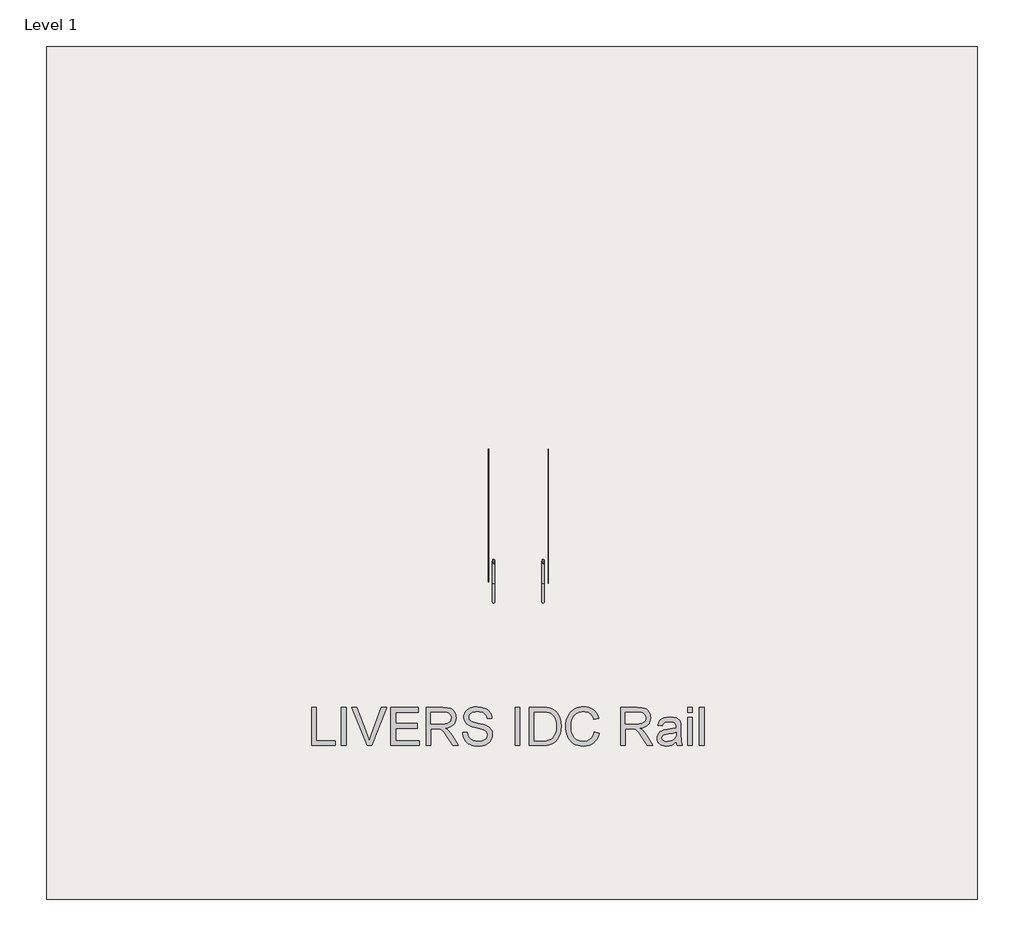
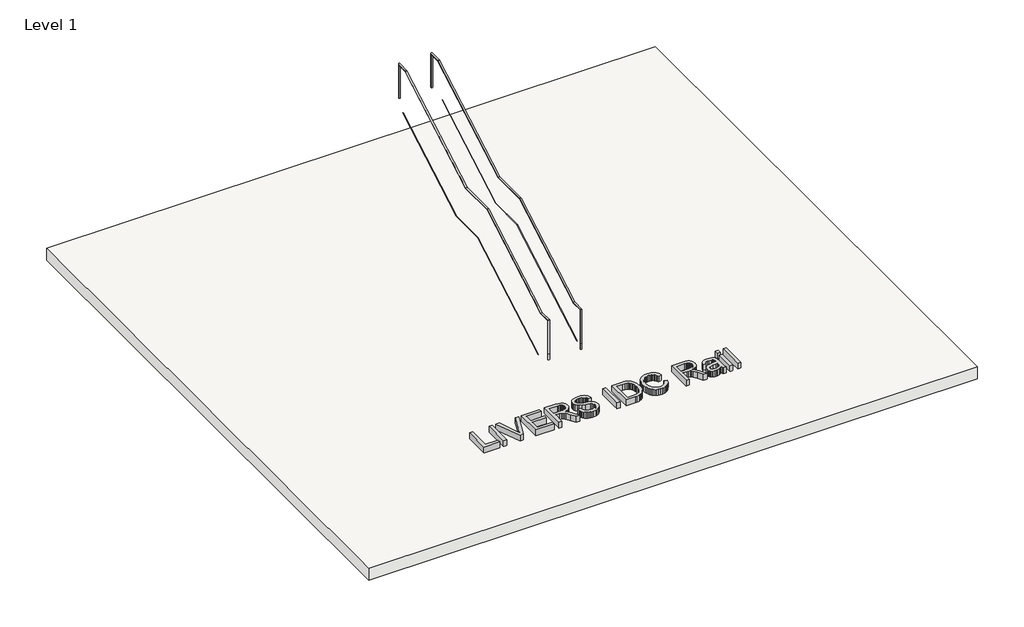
# One storey, incomplete: 2 railings, 1 proxy, 1 slab.
"""IFC4 building model written with IfcOpenShell, lengths in millimetres."""

import ifcopenshell
import ifcopenshell.guid

model = None  # the IFC model being written
_history = None  # IfcOwnerHistory: only IFC2X3 demands one
_inside = {}  # id of a spatial element -> (the spatial element, [elements in it])
_under = {}  # id of a project, library or spatial element -> (it, [spatial elements below it])
_declared = {}  # id of a project -> (the project, [libraries it declares])
_typed = {}  # id of a type object -> (the type object, [elements of that type])
_made_of = {}  # id of a material, layer set ... -> (it, [elements and type objects made of it])


def new_model(schema):
    """Start an empty IFC model of exactly this schema.

    Asked for "IFC4X3", IfcOpenShell would pick the latest addendum, in which some entities
    have other attributes; the version numbers below select the first issue.
    IFC2X3 requires an IfcOwnerHistory on every rooted entity: one is made here for all.
    """
    global model, _history
    if schema == "IFC4X3":
        model = ifcopenshell.file(schema_version=(4, 3, 0, 0))
    else:
        model = ifcopenshell.file(schema=schema)
    _inside.clear()
    _under.clear()
    _declared.clear()
    _typed.clear()
    _made_of.clear()
    _history = None
    if model.schema == "IFC2X3":
        org = make("IfcOrganization", Name="unknown")
        user = make(
            "IfcPersonAndOrganization",
            ThePerson=make("IfcPerson", FamilyName="unknown"),
            TheOrganization=org,
        )
        app = make(
            "IfcApplication",
            ApplicationDeveloper=org,
            Version="unknown",
            ApplicationFullName="unknown",
            ApplicationIdentifier="unknown",
        )
        _history = make(
            "IfcOwnerHistory",
            OwningUser=user,
            OwningApplication=app,
            ChangeAction="ADDED",
            CreationDate=0,
        )
    return model


def make(cls, **values):
    """One entity of the class cls with the attributes given. An attribute that is None is left unset."""
    return model.create_entity(
        cls, **{name: value for name, value in values.items() if value is not None}
    )


def rooted(cls, **values):
    """An entity with a GlobalId (a new one), such as an element, a storey or a relation."""
    return make(cls, GlobalId=ifcopenshell.guid.new(), OwnerHistory=_history, **values)


def si_unit(unit_type, name, prefix=None):
    """IfcSIUnit, for example si_unit("LENGTHUNIT", "METRE", prefix="MILLI")."""
    return make("IfcSIUnit", UnitType=unit_type, Prefix=prefix, Name=name)


def assignment(units):
    """IfcUnitAssignment: the units of a project."""
    return None if units is None else make("IfcUnitAssignment", Units=units)


def point(xyz):
    """IfcCartesianPoint."""
    return None if xyz is None else make("IfcCartesianPoint", Coordinates=xyz)


def direction(xyz):
    """IfcDirection."""
    return None if xyz is None else make("IfcDirection", DirectionRatios=xyz)


def frame(location, z_axis=None, x_axis=None):
    """IfcAxis2Placement3D, a coordinate frame: its origin and axes. An axis left out is left unset."""
    return make(
        "IfcAxis2Placement3D",
        Location=point(location),
        Axis=direction(z_axis),
        RefDirection=direction(x_axis),
    )


def origin():
    """The frame at (0, 0, 0) with its axes left unset."""
    return frame((0.0, 0.0, 0.0))


def origin_with_axes():
    """The frame at (0, 0, 0) with the z axis (0, 0, 1) and the x axis (1, 0, 0) written out."""
    return frame((0.0, 0.0, 0.0), z_axis=(0.0, 0.0, 1.0), x_axis=(1.0, 0.0, 0.0))


def place(relative_to, where):
    """IfcLocalPlacement: puts the frame where relative to a parent placement (None: the world)."""
    return make(
        "IfcLocalPlacement", PlacementRelTo=relative_to, RelativePlacement=where
    )


def context(
    kind, dimensions, precision=None, world=None, true_north=None, identifier=None
):
    """IfcGeometricRepresentationContext, for example the 3D "Model" context."""
    return make(
        "IfcGeometricRepresentationContext",
        ContextIdentifier=identifier,
        ContextType=kind,
        CoordinateSpaceDimension=dimensions,
        Precision=precision,
        WorldCoordinateSystem=world,
        TrueNorth=true_north,
    )


def project(units=None, contexts=None):
    """IfcProject with its units and contexts."""
    return rooted(
        "IfcProject",
        Name="project",
        RepresentationContexts=contexts,
        UnitsInContext=assignment(units),
    )


def spatial(cls, under=None, at=None, **own):
    """A site, building, storey or space (cls), placed at a placement, below another one or the project."""
    s = rooted(cls, ObjectPlacement=at, **own)
    if under is not None:
        _under.setdefault(under.id(), (under, []))[1].append(s)
    return s


def polyline(points):
    """IfcPolyline through the points."""
    return make("IfcPolyline", Points=[point(p) for p in points])


def circle_curve(where, radius):
    """IfcCircle in the frame where."""
    return make("IfcCircle", Position=where, Radius=radius)


def ellipse_curve(where, semi_axis1, semi_axis2):
    """IfcEllipse in the frame where."""
    return make(
        "IfcEllipse", Position=where, SemiAxis1=semi_axis1, SemiAxis2=semi_axis2
    )


def outline(outer, holes=None, kind="AREA"):
    """IfcArbitraryClosedProfileDef: a profile drawn as a closed curve; with holes, ...WithVoids."""
    if holes is None:
        return make("IfcArbitraryClosedProfileDef", ProfileType=kind, OuterCurve=outer)
    return make(
        "IfcArbitraryProfileDefWithVoids",
        ProfileType=kind,
        OuterCurve=outer,
        InnerCurves=holes,
    )


def extrude(swept, where, along, depth):
    """IfcExtrudedAreaSolid: the profile swept, set in the frame where, extruded along a direction by depth."""
    return make(
        "IfcExtrudedAreaSolid",
        SweptArea=swept,
        Position=where,
        ExtrudedDirection=direction(along),
        Depth=depth,
    )


def shape(context_of_items, identifier, shape_type, items):
    """IfcShapeRepresentation: the items that make up one representation, for example the "Body"."""
    return make(
        "IfcShapeRepresentation",
        ContextOfItems=context_of_items,
        RepresentationIdentifier=identifier,
        RepresentationType=shape_type,
        Items=items,
    )


def made_of(thing, what):
    """Note that an element or type object is made of a material, layer set ...; save() writes the relation."""
    if what is not None:
        _made_of.setdefault(what.id(), (what, []))[1].append(thing)
    return thing


def element(
    cls,
    number,
    at=None,
    inside=None,
    cuts=None,
    type_object=None,
    material=None,
    context=None,
    identifier="Body",
    shape_type=None,
    held_by="IfcProductDefinitionShape",
    body=None,
    shapes=None,
    **own,
):
    """One element of the class cls, such as IfcWall. Its Tag is "e" and its number.

    at: its placement. inside: the storey or other place that contains it. cuts: it is an
    opening in that element (IfcRelVoidsElement). A single representation is given by context,
    identifier, shape_type and body (its items); several are given by shapes. held_by: the class
    of the entity that holds the representations. save() writes the other relations.
    """
    e = rooted(cls, Tag="e%d" % number, ObjectPlacement=at, **own)
    if body is not None:
        shapes = [shape(context, identifier, shape_type, body)]
    if shapes is not None:
        e.Representation = make(held_by, Representations=shapes)
    if inside is not None:
        _inside.setdefault(inside.id(), (inside, []))[1].append(e)
    if cuts is not None:
        rooted(
            "IfcRelVoidsElement", RelatingBuildingElement=cuts, RelatedOpeningElement=e
        )
    if type_object is not None:
        _typed.setdefault(type_object.id(), (type_object, []))[1].append(e)
    return made_of(e, material)


def aggregate(whole, parts):
    """IfcRelAggregates: a whole, such as a stair, and the parts it consists of."""
    return rooted("IfcRelAggregates", RelatingObject=whole, RelatedObjects=parts)


def save(model, path):
    """Write the relations noted so far, then the file.

    IfcRelAggregates (storeys below a building ...), IfcRelContainedInSpatialStructure (elements
    in a storey), IfcRelDefinesByType, IfcRelAssociatesMaterial and IfcRelDeclares: one each for
    every whole, place, type object, material and project.
    """
    for whole, parts in _under.values():
        aggregate(whole, parts)
    for where, things in _inside.values():
        rooted(
            "IfcRelContainedInSpatialStructure",
            RelatedElements=things,
            RelatingStructure=where,
        )
    for kind, things in _typed.values():
        rooted("IfcRelDefinesByType", RelatedObjects=things, RelatingType=kind)
    for what, things in _made_of.values():
        rooted("IfcRelAssociatesMaterial", RelatedObjects=things, RelatingMaterial=what)
    for by, libraries in _declared.values():
        rooted("IfcRelDeclares", RelatingContext=by, RelatedDefinitions=libraries)
    model.write(path)


def plane_surface(at):
    """IfcPlane: the flat surface through the origin of the frame at, square to its z axis."""
    return make("IfcPlane", Position=at)


def cylinder_surface(at, radius):
    """IfcCylindricalSurface: all points at the distance radius from the z axis of the frame at."""
    return make("IfcCylindricalSurface", Position=at, Radius=radius)


def advanced_brep(points, edges, surfaces, faces):
    """IfcAdvancedBrep: a solid bounded by faces that lie on surfaces and meet in shared edges.

    An edge is (start, end): straight between two places in points (the first is 0);
    or (start, end, curve); or (start, end, curve, False) where it runs against its curve.
    A face is (place in surfaces, loops), or (place, loops, False) where it looks against
    its surface's normal. A loop lists edges by number (the first is 1), with a minus sign
    where the edge is run from its end to its start. The first loop is the outer one.
    """
    corners = [point(p) for p in points]
    vertices = [make("IfcVertexPoint", VertexGeometry=c) for c in corners]
    made = []
    for start, end, *more in edges:
        made.append(
            make(
                "IfcEdgeCurve",
                EdgeStart=vertices[start],
                EdgeEnd=vertices[end],
                EdgeGeometry=more[0] if more else make("IfcPolyline", Points=[corners[start], corners[end]]),
                SameSense=more[1] if len(more) > 1 else True,
            )
        )
    hull = []
    for where, loops, *sense in faces:
        bounds = []
        for j, loop in enumerate(loops):
            ring = [make("IfcOrientedEdge", EdgeElement=made[abs(k) - 1], Orientation=k > 0) for k in loop]
            bounds.append(
                make(
                    "IfcFaceOuterBound" if j == 0 else "IfcFaceBound",
                    Bound=make("IfcEdgeLoop", EdgeList=ring),
                    Orientation=True,
                )
            )
        hull.append(make("IfcAdvancedFace", Bounds=bounds, FaceSurface=surfaces[where], SameSense=sense[0] if sense else True))
    return make("IfcAdvancedBrep", Outer=make("IfcClosedShell", CfsFaces=hull))


model = new_model("IFC4")

# Units and contexts
model_context = context("Model", 3, world=origin())
ifc_project = project(units=[si_unit("LENGTHUNIT", "METRE", prefix="MILLI")], contexts=[model_context])

# Site, building, storey
site = spatial("IfcSite", under=ifc_project)
building = spatial("IfcBuilding", under=site)
storey = spatial("IfcBuildingStorey", under=building, Name="Level 1", Elevation=0.0)

# Proxy
placement = place(None, origin())
element("IfcBuildingElementProxy", 1, Name="24\" Arial", ObjectType="24\" Arial", at=placement, inside=storey, context=model_context, shape_type="SweptSolid", body=[
    extrude(outline(polyline([(27482.9841583, -16480.0816777), (27482.9841583, -15879.8601392), (27558.0118506, -15879.8601392), (27558.0118506, -16405.0539854), (27858.1226198, -16405.0539854), (27858.1226198, -16480.0816777), (27482.9841583, -16480.0816777)])), origin_with_axes(), (0.0, 0.0, 1.0), 152.4),
    extrude(outline(polyline([(27951.9072352, -16480.0816777), (27951.9072352, -15879.8601392), (28026.9349275, -15879.8601392), (28026.9349275, -16480.0816777), (27951.9072352, -16480.0816777)])), origin_with_axes(), (0.0, 0.0, 1.0), 152.4),
    extrude(outline(polyline([(28354.3018506, -16480.0816777), (28115.4441583, -15879.8601392), (28195.7472352, -15879.8601392), (28355.6206967, -16312.2951392), (28388.0056967, -16409.7432161), (28419.9510813, -16312.2951392), (28580.2641583, -15879.8601392), (28660.5672352, -15879.8601392), (28431.8206967, -16480.0816777), (28354.3018506, -16480.0816777)])), origin_with_axes(), (0.0, 0.0, 1.0), 152.4),
    extrude(outline(polyline([(28730.3195429, -16480.0816777), (28730.3195429, -15879.8601392), (29161.7287737, -15879.8601392), (29161.7287737, -15954.8878315), (28805.3472352, -15954.8878315), (28805.3472352, -16133.0786007), (29142.9718506, -16133.0786007), (29142.9718506, -16208.106293), (28805.3472352, -16208.106293), (28805.3472352, -16405.0539854), (29171.1072352, -16405.0539854), (29171.1072352, -16480.0816777), (28730.3195429, -16480.0816777)])), origin_with_axes(), (0.0, 0.0, 1.0), 152.4),
    extrude(outline(polyline([(29283.6487737, -16480.0816777), (29283.6487737, -15879.8601392), (29542.2891583, -15879.8601392), (29611.803341, -15883.9082642), (29662.3774275, -15896.0526392), (29681.8945188, -15905.7058604), (29699.3417544, -15918.4730238), (29714.7191342, -15934.3541296), (29728.0266583, -15953.3491777), (29738.7651799, -15974.4369781), (29746.4355525, -15996.5963411), (29751.0377761, -16019.8272666), (29752.5718506, -16044.1297546), (29750.0303241, -16074.9577834), (29742.4057448, -16103.2580238), (29729.6981126, -16129.0304757), (29711.9074275, -16152.2751392), (29688.8047232, -16172.2501632), (29660.1610333, -16188.2136969), (29625.9763578, -16200.1657402), (29586.2506967, -16208.106293), (29610.9790621, -16224.2621584), (29628.893389, -16240.1982161), (29659.6298313, -16276.6496584), (29689.7068506, -16317.4239854), (29789.7926198, -16480.0816777), (29702.6022352, -16480.0816777), (29624.4972352, -16355.6705238), (29568.0799275, -16273.3159084), (29547.1066102, -16249.301918), (29528.4412737, -16234.4099469), (29492.7591583, -16220.1224469), (29449.2372352, -16217.4847546), (29358.676466, -16217.4847546), (29358.676466, -16480.0816777), (29283.6487737, -16480.0816777)]), holes=[polyline([(29358.676466, -16142.4570623), (29526.6095429, -16142.4570623), (29574.839014, -16139.8010527), (29612.2612737, -16131.8330238), (29640.4332929, -16118.0217738), (29660.9120429, -16097.8361007), (29673.3861294, -16073.4191296), (29677.5441583, -16046.9139854), (29675.5613097, -16027.7266055), (29669.612764, -16010.3160046), (29659.6985212, -15994.6821825), (29645.8185813, -15980.8251392), (29627.6523914, -15969.4775671), (29604.8793987, -15961.3721584), (29577.499603, -15956.5089132), (29545.5130044, -15954.8878315), (29358.676466, -15954.8878315), (29358.676466, -16142.4570623)])]), origin_with_axes(), (0.0, 0.0, 1.0), 152.4),
    extrude(outline(polyline([(29855.7349275, -16273.7555238), (29930.7626198, -16273.7555238), (29939.3717544, -16315.3907642), (29954.941466, -16348.8564854), (29979.230216, -16375.4165815), (30013.996466, -16396.3349469), (30056.4926198, -16409.9080719), (30103.9710813, -16414.4324469), (30145.7711775, -16411.0071104), (30182.3691583, -16400.7311007), (30212.0248794, -16384.4653315), (30232.9981967, -16363.0707161), (30245.4722833, -16338.5072065), (30249.6303121, -16312.7347546), (30246.5163698, -16287.6217257), (30237.1745429, -16265.9157161), (30218.1978121, -16247.396918), (30186.1791583, -16231.8455238), (30076.9347352, -16203.1972546), (30005.2224756, -16184.2388411), (29959.3376198, -16166.196293), (29921.9886294, -16140.955043), (29895.5201198, -16110.3651392), (29879.7489179, -16075.0860046), (29874.4918506, -16035.7770623), (29876.1175116, -16013.4345262), (29880.9944948, -15991.8338411), (29889.1228001, -15970.975007), (29900.5024275, -15950.8580238), (29915.0051559, -15932.3025911), (29932.502764, -15916.1284084), (29952.995252, -15902.3354757), (29976.4826198, -15890.923793), (30029.2731006, -15875.5922065), (30087.7053121, -15870.4816777), (30151.0099275, -15875.8303315), (30206.401466, -15891.876293), (30230.635264, -15903.8283363), (30251.9016583, -15918.2898507), (30270.2006487, -15935.2608363), (30285.5322352, -15954.741293), (30297.7773554, -15976.1633844), (30306.8169467, -15998.9592738), (30312.6510092, -16023.1289613), (30315.2795429, -16048.6724469), (30240.2518506, -16048.6724469), (30235.2329083, -16024.7317257), (30226.4772352, -16003.9049469), (30213.9848313, -15986.1921104), (30197.7556967, -15971.5932161), (30177.4875958, -15960.1815334), (30152.8782929, -15952.0303315), (30123.9277881, -15947.1396104), (30090.6360813, -15945.50937), (30056.2819708, -15947.121293), (30026.9284852, -15951.9570623), (30002.5756246, -15960.0166777), (29983.223389, -15971.3001392), (29968.4779563, -15984.8641055), (29957.9455044, -15999.7652354), (29951.6260333, -16016.0035286), (29949.5195429, -16033.5789854), (29951.0124035, -16048.6999229), (29955.4909852, -16062.4104277), (29962.9552881, -16074.7104998), (29973.4053121, -16085.6001392), (29989.8542544, -16095.9127834), (30015.7549275, -16106.3353315), (30095.911466, -16127.5101392), (30178.6324275, -16147.622543), (30228.6753121, -16165.1705238), (30271.4462256, -16192.390043), (30287.9821751, -16208.3902113), (30301.2851198, -16225.9839854), (30311.5107568, -16245.0797786), (30318.8147833, -16265.5860046), (30324.6580044, -16310.8297546), (30322.9773914, -16334.2988051), (30317.9355525, -16357.0809565), (30309.5324876, -16379.1762089), (30297.7681967, -16400.5845623), (30282.8487496, -16420.4771584), (30264.980216, -16438.0251392), (30244.1625958, -16453.2285046), (30220.395889, -16466.0872546), (30194.3715741, -16476.3128916), (30166.7811294, -16483.616918), (30106.9018506, -16489.4601392), (30068.5225116, -16487.8848507), (30033.3944948, -16483.1589854), (30001.5178001, -16475.282543), (29972.8924275, -16464.2555238), (29947.3443626, -16450.0596104), (29924.699591, -16432.6764854), (29904.9581126, -16412.1061488), (29888.1199275, -16388.3486007), (29874.5559612, -16362.173168), (29864.637139, -16334.3491777), (29858.3634612, -16304.8766296), (29855.7349275, -16273.7555238)])), origin_with_axes(), (0.0, 0.0, 1.0), 152.4),
    extrude(outline(polyline([(30681.0395429, -16480.0816777), (30681.0395429, -15879.8601392), (30756.0672352, -15879.8601392), (30756.0672352, -16480.0816777), (30681.0395429, -16480.0816777)])), origin_with_axes(), (0.0, 0.0, 1.0), 152.4),
    extrude(outline(polyline([(30906.1226198, -16480.0816777), (30906.1226198, -15879.8601392), (31113.181466, -15879.8601392), (31175.0573313, -15882.0215815), (31220.3010813, -15888.5059084), (31268.145889, -15905.1746584), (31308.5172352, -15931.4416777), (31330.7636054, -15952.9095623), (31350.0242544, -15977.1616777), (31366.2991823, -16004.1980238), (31379.588389, -16034.0186007), (31389.9101919, -16066.3486488), (31397.2829083, -16100.9134084), (31403.1810813, -16176.7470623), (31399.1879083, -16241.1690334), (31387.208389, -16297.8611007), (31368.9643506, -16346.1272065), (31346.1776198, -16385.271293), (31319.9472352, -16416.1725911), (31291.3722352, -16439.7103315), (31258.5659371, -16457.1667257), (31219.6416583, -16469.8239854), (31174.5261294, -16477.5172546), (31123.1460813, -16480.0816777), (30906.1226198, -16480.0816777)]), holes=[polyline([(30981.1503121, -16405.0539854), (31113.9141583, -16405.0539854), (31168.8294467, -16402.3430238), (31210.4830044, -16394.2101392), (31241.9155044, -16381.1315815), (31266.1676198, -16363.5836007), (31292.2331487, -16331.1070142), (31311.8143506, -16289.068793), (31324.0686294, -16237.2857642), (31328.153389, -16175.5747546), (31326.1522232, -16132.0161969), (31320.1487256, -16093.806293), (31310.1428962, -16060.945043), (31296.1347352, -16033.4324469), (31279.2599155, -16010.6457161), (31260.6541102, -15991.9620623), (31240.3173193, -15977.3814854), (31218.2495429, -15966.9039854), (31175.093966, -15957.89187), (31111.8626198, -15954.8878315), (30981.1503121, -15954.8878315), (30981.1503121, -16405.0539854)])]), origin_with_axes(), (0.0, 0.0, 1.0), 152.4),
    extrude(outline(polyline([(31928.3749275, -16266.7216777), (32003.4026198, -16286.0647546), (31988.5564419, -16332.7235166), (31968.7829083, -16373.4932642), (31944.0820188, -16408.3739974), (31914.4537737, -16437.3657161), (31880.5667544, -16460.1570262), (31843.0895429, -16476.4365334), (31802.022139, -16486.2042378), (31757.3645429, -16489.4601392), (31711.6124876, -16486.9964613), (31670.339014, -16479.6054277), (31633.5441222, -16467.2870382), (31601.2278121, -16450.041293), (31572.945889, -16428.1246344), (31548.2541583, -16401.7935046), (31527.1526198, -16371.0479036), (31509.6412737, -16335.8878315), (31495.8895549, -16297.8336248), (31486.0668987, -16258.40562), (31480.1733049, -16217.6038171), (31478.2087737, -16175.4282161), (31480.4297472, -16130.1753075), (31487.0926679, -16087.90812), (31498.1975357, -16048.6266536), (31513.7443506, -16012.3309084), (31533.3850837, -15979.6207762), (31556.7717063, -15951.0961488), (31583.9042184, -15926.7570262), (31614.7826198, -15906.6034084), (31648.3582448, -15890.8001512), (31683.5824275, -15879.5121104), (31720.4551679, -15872.7392858), (31758.976466, -15870.4816777), (31801.8893386, -15873.4032882), (31841.2394948, -15882.16812), (31877.0269347, -15896.7761729), (31909.2516583, -15917.2274469), (31937.3824636, -15942.9815815), (31960.8881487, -15973.4982161), (31979.7687136, -16008.7773507), (31994.0241583, -16048.8189854), (31918.996466, -16066.6966777), (31907.1818025, -16037.1920743), (31892.985889, -16011.9828796), (31876.4087256, -15991.0690935), (31857.4503121, -15974.4507161), (31836.0007448, -15961.7888772), (31811.9501198, -15952.7447065), (31785.2984371, -15947.3182041), (31756.0456967, -15945.50937), (31722.3876438, -15947.5151152), (31691.6054083, -15953.5323507), (31663.69899, -15963.5610767), (31638.668389, -15977.601293), (31616.8295789, -15995.0210527), (31598.4985333, -16015.1884084), (31583.675252, -16038.1033604), (31572.3597352, -16063.7659084), (31558.0172833, -16118.6811969), (31553.236466, -16175.2816777), (31558.896514, -16244.59437), (31565.9715741, -16275.733793), (31575.8766583, -16304.5286007), (31588.7720429, -16330.4063772), (31604.8180044, -16352.7947065), (31624.0145429, -16371.6935887), (31646.3616583, -16387.1030238), (31670.7740501, -16399.0596464), (31696.1664179, -16407.6000911), (31722.5387616, -16412.7243579), (31749.8910813, -16414.4324469), (31782.509627, -16412.1061488), (31812.5179563, -16405.1272546), (31839.9160693, -16393.4957642), (31864.703966, -16377.2116777), (31886.2954924, -16356.3482642), (31904.1044948, -16330.978793), (31918.1309732, -16301.1032642), (31928.3749275, -16266.7216777)])), origin_with_axes(), (0.0, 0.0, 1.0), 152.4),
    extrude(outline(polyline([(32341.0272352, -16480.0816777), (32341.0272352, -15879.8601392), (32599.6676198, -15879.8601392), (32669.1818025, -15883.9082642), (32719.755889, -15896.0526392), (32739.2729804, -15905.7058604), (32756.720216, -15918.4730238), (32772.0975958, -15934.3541296), (32785.4051198, -15953.3491777), (32796.1436414, -15974.4369781), (32803.814014, -15996.5963411), (32808.4162376, -16019.8272666), (32809.9503121, -16044.1297546), (32807.4087857, -16074.9577834), (32799.7842063, -16103.2580238), (32787.0765741, -16129.0304757), (32769.285889, -16152.2751392), (32746.1831847, -16172.2501632), (32717.5394948, -16188.2136969), (32683.3548193, -16200.1657402), (32643.6291583, -16208.106293), (32668.3575237, -16224.2621584), (32686.2718506, -16240.1982161), (32717.0082929, -16276.6496584), (32747.0853121, -16317.4239854), (32847.1710813, -16480.0816777), (32759.9806967, -16480.0816777), (32681.8756967, -16355.6705238), (32625.458389, -16273.3159084), (32604.4850717, -16249.301918), (32585.8197352, -16234.4099469), (32550.1376198, -16220.1224469), (32506.6156967, -16217.4847546), (32416.0549275, -16217.4847546), (32416.0549275, -16480.0816777), (32341.0272352, -16480.0816777)]), holes=[polyline([(32416.0549275, -16142.4570623), (32583.9880044, -16142.4570623), (32632.2174756, -16139.8010527), (32669.6397352, -16131.8330238), (32697.8117544, -16118.0217738), (32718.2905044, -16097.8361007), (32730.764591, -16073.4191296), (32734.9226198, -16046.9139854), (32732.9397712, -16027.7266055), (32726.9912256, -16010.3160046), (32717.0769828, -15994.6821825), (32703.1970429, -15980.8251392), (32685.030853, -15969.4775671), (32662.2578602, -15961.3721584), (32634.8780645, -15956.5089132), (32602.891466, -15954.8878315), (32416.0549275, -15954.8878315), (32416.0549275, -16142.4570623)])]), origin_with_axes(), (0.0, 0.0, 1.0), 152.4),
    extrude(outline(polyline([(33213.2241583, -16423.8109084), (33177.3771871, -16454.5473507), (33140.4678121, -16474.6597546), (33101.6534371, -16485.760043), (33060.091466, -16489.4601392), (33026.6852761, -16487.2345863), (32997.3913217, -16480.5579277), (32972.209603, -16469.4301632), (32951.1401198, -16453.851293), (32934.5034251, -16434.8104517), (32922.6200717, -16413.2967738), (32915.4900597, -16389.3102594), (32913.113389, -16362.8509084), (32916.7035813, -16331.74812), (32927.4741583, -16303.5028315), (32944.0879563, -16279.3239854), (32965.2078121, -16260.4205238), (32990.027764, -16246.1330238), (33017.7418506, -16235.8020623), (33082.658389, -16224.5186007), (33159.3712737, -16212.6489854), (33212.7845429, -16198.7278315), (33213.2241583, -16182.0224469), (33208.0586775, -16148.5384084), (33201.6018265, -16136.1375911), (33192.5622352, -16126.6309084), (33176.9375717, -16117.142543), (33157.905889, -16110.3651392), (33109.621466, -16104.9432161), (33064.9272352, -16108.5517257), (33033.7145429, -16119.3772546), (33012.4298313, -16139.3980719), (32997.5195429, -16170.5924469), (32922.4918506, -16161.2139854), (32935.5154563, -16120.1832161), (32954.9501198, -16087.9447546), (32982.6092544, -16063.2896584), (33020.3062737, -16045.0089854), (33066.4109371, -16033.6888892), (33119.2930044, -16029.9155238), (33170.0136294, -16033.2492738), (33210.2201198, -16043.2505238), (33240.535264, -16058.2890334), (33261.5818506, -16076.7345623), (33275.539639, -16099.5396104), (33284.588389, -16127.6566777), (33288.2518506, -16193.3059084), (33288.2518506, -16286.6509084), (33292.0618506, -16416.99687), (33297.7035813, -16449.2170142), (33307.0087737, -16480.0816777), (33231.9810813, -16480.0816777), (33219.9649275, -16453.9978315), (33213.2241583, -16423.8109084)]), holes=[polyline([(33213.2241583, -16273.7555238), (33162.8149275, -16286.2479277), (33092.183389, -16296.7620623), (33027.6331967, -16308.9247546), (33010.8362256, -16317.2408123), (32998.3987737, -16328.7074469), (32990.7055044, -16342.4454277), (32988.1410813, -16357.5755238), (32993.7278602, -16379.8860046), (33010.4881967, -16398.1666777), (33038.0557448, -16410.3660046), (33076.0641583, -16414.4324469), (33116.3622352, -16409.9447065), (33151.9710813, -16396.4814854), (33180.8391583, -16376.6438411), (33200.9149275, -16353.0328315), (33209.817139, -16328.7074469), (33212.7845429, -16295.0036007), (33213.2241583, -16273.7555238)])]), origin_with_axes(), (0.0, 0.0, 1.0), 152.4),
    extrude(outline(polyline([(33391.4149275, -16480.0816777), (33391.4149275, -16039.2939854), (33466.4426198, -16039.2939854), (33466.4426198, -16480.0816777), (33391.4149275, -16480.0816777)])), origin_with_axes(), (0.0, 0.0, 1.0), 152.4),
    extrude(outline(polyline([(33391.4149275, -15954.8878315), (33391.4149275, -15879.8601392), (33466.4426198, -15879.8601392), (33466.4426198, -15954.8878315), (33391.4149275, -15954.8878315)])), origin_with_axes(), (0.0, 0.0, 1.0), 152.4),
    extrude(outline(polyline([(33578.9841583, -16480.0816777), (33578.9841583, -15879.8601392), (33654.0118506, -15879.8601392), (33654.0118506, -16480.0816777), (33578.9841583, -16480.0816777)])), origin_with_axes(), (0.0, 0.0, 1.0), 152.4),
])

# Railings
element("IfcRailing", 2, ObjectType="LIVERS_IDC", at=placement, inside=storey, context=model_context, shape_type="AdvancedBrep", body=[
    advanced_brep(
    [(30324.831941, -14219.1477698, 160.4210526), (30362.931941, -14219.1477698, 160.4210526), (30362.931941, -14219.1477698, 1004.9710526), (30324.831941, -14219.1477698, 1004.9710526), (30362.931941, -13928.3177698, 1004.9710526), (30324.831941, -13928.3177698, 1004.9710526), (30362.931941, -11693.1177698, 2288.3394737), (30324.831941, -11693.1177698, 2288.3394737), (30362.931941, -10804.1177698, 2288.3394737), (30324.831941, -10804.1177698, 2288.3394737), (30362.931941, -8289.5177698, 3732.1289474), (30324.831941, -8289.5177698, 3732.1289474), (30362.931941, -8008.8477698, 3732.1289474), (30324.831941, -8008.8477698, 3732.1289474), (30362.931941, -8008.8477698, 2887.5789474), (30324.831941, -8008.8477698, 2887.5789474), (30362.931941, -14219.1477698, 0.0), (30324.831941, -14219.1477698, 0.0)],
    [
        (0, 1, circle_curve(frame((30343.881941, -14219.1477698, 160.4210526), z_axis=(0.0, 0.0, 1.0), x_axis=(-1.0, 0.0, 0.0)), 19.05)),
        (1, 2),
        (2, 3, ellipse_curve(frame((30343.881941, -14219.1477698, 1004.9710526), z_axis=(0.0, -0.7071067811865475, -0.7071067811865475), x_axis=(0.0, 0.7071067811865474, -0.7071067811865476)), 26.9407684, 19.05)),
        (3, 0),
        (1, 0, circle_curve(frame((30343.881941, -14219.1477698, 160.4210526), z_axis=(0.0, 0.0, 1.0), x_axis=(-1.0, 0.0, 0.0)), 19.05)),
        (3, 2, ellipse_curve(frame((30343.881941, -14219.1477698, 1004.9710526), z_axis=(0.0, -0.7071067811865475, -0.7071067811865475), x_axis=(0.0, 0.7071067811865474, -0.7071067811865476)), 26.9407684, 19.05)),
        (2, 4),
        (4, 5, ellipse_curve(frame((30343.881941, -13928.3177698, 1004.9710526), z_axis=(0.0, -0.9662349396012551, -0.25766265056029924), x_axis=(0.0, -0.25766265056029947, 0.9662349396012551)), 19.7157019, 19.05)),
        (5, 3),
        (5, 4, ellipse_curve(frame((30343.881941, -13928.3177698, 1004.9710526), z_axis=(0.0, -0.9662349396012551, -0.25766265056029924), x_axis=(0.0, -0.25766265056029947, 0.9662349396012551)), 19.7157019, 19.05)),
        (4, 6),
        (6, 7, ellipse_curve(frame((30343.881941, -11693.1177698, 2288.3394737), z_axis=(0.0, -0.9662349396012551, -0.25766265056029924), x_axis=(0.0, 0.2576626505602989, -0.9662349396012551)), 19.7157019, 19.05)),
        (7, 5),
        (7, 6, ellipse_curve(frame((30343.881941, -11693.1177698, 2288.3394737), z_axis=(0.0, -0.9662349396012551, -0.25766265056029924), x_axis=(0.0, 0.2576626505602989, -0.9662349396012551)), 19.7157019, 19.05)),
        (6, 8),
        (8, 9, ellipse_curve(frame((30343.881941, -10804.1177698, 2288.3394737), z_axis=(0.0, -0.9662349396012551, -0.2576626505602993), x_axis=(0.0, -0.25766265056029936, 0.9662349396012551)), 19.7157019, 19.05)),
        (9, 7),
        (9, 8, ellipse_curve(frame((30343.881941, -10804.1177698, 2288.3394737), z_axis=(0.0, -0.9662349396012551, -0.2576626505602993), x_axis=(0.0, -0.25766265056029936, 0.9662349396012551)), 19.7157019, 19.05)),
        (8, 10),
        (10, 11, ellipse_curve(frame((30343.881941, -8289.5177698, 3732.1289474), z_axis=(0.0, -0.9662349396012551, -0.2576626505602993), x_axis=(0.0, 0.25766265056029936, -0.9662349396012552)), 19.7157019, 19.05)),
        (11, 9),
        (11, 10, ellipse_curve(frame((30343.881941, -8289.5177698, 3732.1289474), z_axis=(0.0, -0.9662349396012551, -0.2576626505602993), x_axis=(0.0, 0.25766265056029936, -0.9662349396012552)), 19.7157019, 19.05)),
        (10, 12),
        (12, 13, ellipse_curve(frame((30343.881941, -8008.8477698, 3732.1289474), z_axis=(0.0, -0.7071067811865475, 0.7071067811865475), x_axis=(0.0, -0.7071067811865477, -0.7071067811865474)), 26.9407684, 19.05)),
        (13, 11),
        (13, 12, ellipse_curve(frame((30343.881941, -8008.8477698, 3732.1289474), z_axis=(0.0, -0.7071067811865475, 0.7071067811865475), x_axis=(0.0, -0.7071067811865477, -0.7071067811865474)), 26.9407684, 19.05)),
        (14, 15, circle_curve(frame((30343.881941, -8008.8477698, 2887.5789474), z_axis=(0.0, 0.0, -1.0), x_axis=(-1.0, 0.0, 0.0)), 19.05)),
        (15, 14, circle_curve(frame((30343.881941, -8008.8477698, 2887.5789474), z_axis=(0.0, 0.0, -1.0), x_axis=(-1.0, 0.0, 0.0)), 19.05)),
        (12, 14),
        (15, 13),
        (16, 17, circle_curve(frame((30343.881941, -14219.1477698, 0.0), z_axis=(0.0, 0.0, -1.0), x_axis=(-1.0, 0.0, 0.0)), 19.05)),
        (17, 16, circle_curve(frame((30343.881941, -14219.1477698, 0.0), z_axis=(0.0, 0.0, -1.0), x_axis=(-1.0, 0.0, 0.0)), 19.05)),
        (16, 1),
        (0, 17),
    ],
    [
        cylinder_surface(frame((30343.881941, -14219.1477698, 160.4210526), z_axis=(0.0, 0.0, -1.0), x_axis=(-1.0, 0.0, 0.0)), 19.05),
        cylinder_surface(frame((30343.881941, -14238.1977698, 1004.9710526), z_axis=(0.0, -1.0, 0.0), x_axis=(-1.0, 0.0, 0.0)), 19.05),
        cylinder_surface(frame((30343.881941, -13923.9122926, 1007.5005132), z_axis=(0.0, -0.8672199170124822, -0.49792531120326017), x_axis=(-1.0, 0.0, 0.0)), 19.05),
        cylinder_surface(frame((30343.881941, -11698.1977698, 2288.3394737), z_axis=(0.0, -1.0, 0.0), x_axis=(-1.0, 0.0, 0.0)), 19.05),
        cylinder_surface(frame((30343.881941, -10799.7122926, 2290.8689343), z_axis=(0.0, -0.8672199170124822, -0.4979253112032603), x_axis=(-1.0, 0.0, 0.0)), 19.05),
        cylinder_surface(frame((30343.881941, -8294.5977698, 3732.1289474), z_axis=(0.0, -1.0, 0.0), x_axis=(-1.0, 0.0, 0.0)), 19.05),
        plane_surface(frame((30343.881941, -8027.8977698, 2887.5789474), z_axis=(0.0, 0.0, -1.0), x_axis=(-1.0, 0.0, 0.0))),
        cylinder_surface(frame((30343.881941, -8008.8477698, 3751.1789474), z_axis=(0.0, 0.0, 1.0), x_axis=(-1.0, 0.0, 0.0)), 19.05),
        plane_surface(frame((30343.881941, -14276.2977698, 0.0), z_axis=(0.0, 0.0, -1.0), x_axis=(1.0, 0.0, 0.0))),
        cylinder_surface(frame((30343.881941, -14219.1477698, 0.0), z_axis=(0.0, 0.0, -1.0), x_axis=(-1.0, 0.0, 0.0)), 19.05),
    ],
    [
        (0, [[1, 2, 3, 4]]),
        (0, [[5, -4, 6, -2]]),
        (1, [[-3, 7, 8, 9]]),
        (1, [[-6, -9, 10, -7]]),
        (2, [[-8, 11, 12, 13]]),
        (2, [[-10, -13, 14, -11]]),
        (3, [[-12, 15, 16, 17]]),
        (3, [[-14, -17, 18, -15]]),
        (4, [[-16, 19, 20, 21]]),
        (4, [[-18, -21, 22, -19]]),
        (5, [[-20, 23, 24, 25]]),
        (5, [[-22, -25, 26, -23]]),
        (6, [[27, 28]]),
        (7, [[-24, 29, -28, 30]]),
        (7, [[-26, -30, -27, -29]]),
        (8, [[31, 32]]),
        (9, [[-31, 33, -1, 34]]),
        (9, [[-32, -34, -5, -33]]),
    ],
),
    advanced_brep(
    [(30264.147786, -13933.3977698, -14.2241041), (30261.6910961, -13933.3977698, -14.2241041), (30264.147786, -11414.0398304, 1432.2972008), (30261.6910961, -11414.0398304, 1432.2972008), (30264.147786, -10525.0398304, 1432.2972008), (30261.6910961, -10525.0398304, 1432.2972008), (30264.147786, -8294.5977698, 2712.9337906), (30261.6910961, -8294.5977698, 2712.9337906)],
    [
        (0, 1, ellipse_curve(frame((30262.919441, -13933.3977698, -14.2241041), z_axis=(0.0, -1.0, 0.0), x_axis=(0.0, 0.0, -1.0)), 1.416417, 1.228345)),
        (1, 0, ellipse_curve(frame((30262.919441, -13933.3977698, -14.2241041), z_axis=(0.0, -1.0, 0.0), x_axis=(0.0, 0.0, -1.0)), 1.416417, 1.228345)),
        (0, 2),
        (2, 3, ellipse_curve(frame((30262.919441, -11414.0398304, 1432.2972008), z_axis=(0.0, -0.9662349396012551, -0.25766265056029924), x_axis=(0.0, 0.2576626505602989, -0.9662349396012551)), 1.2712695, 1.228345)),
        (3, 1),
        (3, 2, ellipse_curve(frame((30262.919441, -11414.0398304, 1432.2972008), z_axis=(0.0, -0.9662349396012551, -0.25766265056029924), x_axis=(0.0, 0.2576626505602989, -0.9662349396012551)), 1.2712695, 1.228345)),
        (2, 4),
        (4, 5, ellipse_curve(frame((30262.919441, -10525.0398304, 1432.2972008), z_axis=(0.0, -0.9662349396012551, -0.2576626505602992), x_axis=(0.0, -0.25766265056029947, 0.9662349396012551)), 1.2712695, 1.228345)),
        (5, 3),
        (5, 4, ellipse_curve(frame((30262.919441, -10525.0398304, 1432.2972008), z_axis=(0.0, -0.9662349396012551, -0.2576626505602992), x_axis=(0.0, -0.25766265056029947, 0.9662349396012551)), 1.2712695, 1.228345)),
        (6, 7, ellipse_curve(frame((30262.919441, -8294.5977698, 2712.9337906), z_axis=(0.0, 1.0, 0.0), x_axis=(0.0, 0.0, -0.9999999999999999)), 1.416417, 1.228345)),
        (7, 6, ellipse_curve(frame((30262.919441, -8294.5977698, 2712.9337906), z_axis=(0.0, 1.0, 0.0), x_axis=(0.0, 0.0, -0.9999999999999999)), 1.416417, 1.228345)),
        (4, 6),
        (7, 5),
    ],
    [
        plane_surface(frame((30262.919441, -13933.3977698, 1214.5210526), z_axis=(0.0, -1.0, 0.0), x_axis=(0.0, 0.0, 1.0))),
        cylinder_surface(frame((30262.919441, -13402.8124057, 290.4182102), z_axis=(0.0, -0.8672199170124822, -0.49792531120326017), x_axis=(-1.0, 0.0, 0.0)), 1.228345),
        cylinder_surface(frame((30262.919441, -11698.1977698, 1432.2972008), z_axis=(0.0, -1.0, 0.0), x_axis=(-1.0, 0.0, 0.0)), 1.228345),
        plane_surface(frame((30262.919441, -8294.5977698, 3941.6789474), z_axis=(0.0, 1.0, 0.0), x_axis=(0.0, 0.0, 1.0))),
        cylinder_surface(frame((30262.919441, -10278.6124057, 1573.7866312), z_axis=(0.0, -0.8672199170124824, -0.4979253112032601), x_axis=(-1.0, 0.0, 0.0)), 1.228345),
    ],
    [
        (0, [[1, 2]]),
        (1, [[-1, 3, 4, 5]]),
        (1, [[-2, -5, 6, -3]]),
        (2, [[-4, 7, 8, 9]]),
        (2, [[-6, -9, 10, -7]]),
        (3, [[11, 12]]),
        (4, [[-8, 13, -12, 14]]),
        (4, [[-10, -14, -11, -13]]),
    ],
),
])
element("IfcRailing", 3, ObjectType="LIVERS_IDC", at=placement, inside=storey, context=model_context, shape_type="AdvancedBrep", body=[
    advanced_brep(
    [(31102.706941, -14219.1477698, 160.4210526), (31140.806941, -14219.1477698, 160.4210526), (31140.806941, -14219.1477698, 1004.9710526), (31102.706941, -14219.1477698, 1004.9710526), (31140.806941, -13928.3177698, 1004.9710526), (31102.706941, -13928.3177698, 1004.9710526), (31140.806941, -11693.1177698, 2288.3394737), (31102.706941, -11693.1177698, 2288.3394737), (31140.806941, -10804.1177698, 2288.3394737), (31102.706941, -10804.1177698, 2288.3394737), (31140.806941, -8289.5177698, 3732.1289474), (31102.706941, -8289.5177698, 3732.1289474), (31140.806941, -8008.8477698, 3732.1289474), (31102.706941, -8008.8477698, 3732.1289474), (31140.806941, -8008.8477698, 2887.5789474), (31102.706941, -8008.8477698, 2887.5789474), (31140.806941, -14219.1477698, 0.0), (31102.706941, -14219.1477698, 0.0)],
    [
        (0, 1, circle_curve(frame((31121.756941, -14219.1477698, 160.4210526), z_axis=(0.0, 0.0, 1.0), x_axis=(-1.0, 0.0, 0.0)), 19.05)),
        (1, 2),
        (2, 3, ellipse_curve(frame((31121.756941, -14219.1477698, 1004.9710526), z_axis=(0.0, -0.7071067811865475, -0.7071067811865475), x_axis=(0.0, 0.7071067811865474, -0.7071067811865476)), 26.9407684, 19.05)),
        (3, 0),
        (1, 0, circle_curve(frame((31121.756941, -14219.1477698, 160.4210526), z_axis=(0.0, 0.0, 1.0), x_axis=(-1.0, 0.0, 0.0)), 19.05)),
        (3, 2, ellipse_curve(frame((31121.756941, -14219.1477698, 1004.9710526), z_axis=(0.0, -0.7071067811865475, -0.7071067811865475), x_axis=(0.0, 0.7071067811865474, -0.7071067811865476)), 26.9407684, 19.05)),
        (2, 4),
        (4, 5, ellipse_curve(frame((31121.756941, -13928.3177698, 1004.9710526), z_axis=(0.0, -0.9662349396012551, -0.25766265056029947), x_axis=(0.0, -0.25766265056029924, 0.9662349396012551)), 19.7157019, 19.05)),
        (5, 3),
        (5, 4, ellipse_curve(frame((31121.756941, -13928.3177698, 1004.9710526), z_axis=(0.0, -0.9662349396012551, -0.25766265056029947), x_axis=(0.0, -0.25766265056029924, 0.9662349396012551)), 19.7157019, 19.05)),
        (4, 6),
        (6, 7, ellipse_curve(frame((31121.756941, -11693.1177698, 2288.3394737), z_axis=(0.0, -0.9662349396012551, -0.25766265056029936), x_axis=(0.0, 0.2576626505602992, -0.9662349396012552)), 19.7157019, 19.05)),
        (7, 5),
        (7, 6, ellipse_curve(frame((31121.756941, -11693.1177698, 2288.3394737), z_axis=(0.0, -0.9662349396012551, -0.25766265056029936), x_axis=(0.0, 0.2576626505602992, -0.9662349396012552)), 19.7157019, 19.05)),
        (6, 8),
        (8, 9, ellipse_curve(frame((31121.756941, -10804.1177698, 2288.3394737), z_axis=(0.0, -0.9662349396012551, -0.2576626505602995), x_axis=(0.0, -0.257662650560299, 0.9662349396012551)), 19.7157019, 19.05)),
        (9, 7),
        (9, 8, ellipse_curve(frame((31121.756941, -10804.1177698, 2288.3394737), z_axis=(0.0, -0.9662349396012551, -0.2576626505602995), x_axis=(0.0, -0.257662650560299, 0.9662349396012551)), 19.7157019, 19.05)),
        (8, 10),
        (10, 11, ellipse_curve(frame((31121.756941, -8289.5177698, 3732.1289474), z_axis=(0.0, -0.9662349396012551, -0.2576626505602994), x_axis=(0.0, 0.25766265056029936, -0.9662349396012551)), 19.7157019, 19.05)),
        (11, 9),
        (11, 10, ellipse_curve(frame((31121.756941, -8289.5177698, 3732.1289474), z_axis=(0.0, -0.9662349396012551, -0.2576626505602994), x_axis=(0.0, 0.25766265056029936, -0.9662349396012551)), 19.7157019, 19.05)),
        (10, 12),
        (12, 13, ellipse_curve(frame((31121.756941, -8008.8477698, 3732.1289474), z_axis=(0.0, -0.7071067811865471, 0.7071067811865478), x_axis=(0.0, -0.707106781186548, -0.7071067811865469)), 26.9407684, 19.05)),
        (13, 11),
        (13, 12, ellipse_curve(frame((31121.756941, -8008.8477698, 3732.1289474), z_axis=(0.0, -0.7071067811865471, 0.7071067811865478), x_axis=(0.0, -0.707106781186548, -0.7071067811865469)), 26.9407684, 19.05)),
        (14, 15, circle_curve(frame((31121.756941, -8008.8477698, 2887.5789474), z_axis=(0.0, 0.0, -1.0), x_axis=(-1.0, 0.0, 0.0)), 19.05)),
        (15, 14, circle_curve(frame((31121.756941, -8008.8477698, 2887.5789474), z_axis=(0.0, 0.0, -1.0), x_axis=(-1.0, 0.0, 0.0)), 19.05)),
        (12, 14),
        (15, 13),
        (16, 17, circle_curve(frame((31121.756941, -14219.1477698, 0.0), z_axis=(0.0, 0.0, -1.0), x_axis=(-1.0, 0.0, 0.0)), 19.05)),
        (17, 16, circle_curve(frame((31121.756941, -14219.1477698, 0.0), z_axis=(0.0, 0.0, -1.0), x_axis=(-1.0, 0.0, 0.0)), 19.05)),
        (16, 1),
        (0, 17),
    ],
    [
        cylinder_surface(frame((31121.756941, -14219.1477698, 160.4210526), z_axis=(0.0, 0.0, -1.0), x_axis=(-1.0, 0.0, 0.0)), 19.05),
        cylinder_surface(frame((31121.756941, -14238.1977698, 1004.9710526), z_axis=(0.0, -1.0, 0.0), x_axis=(-1.0, 0.0, 0.0)), 19.05),
        cylinder_surface(frame((31121.756941, -13923.9122926, 1007.5005132), z_axis=(0.0, -0.867219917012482, -0.49792531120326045), x_axis=(-1.0, 0.0, 0.0)), 19.05),
        cylinder_surface(frame((31121.756941, -11698.1977698, 2288.3394737), z_axis=(0.0, -1.0, 0.0), x_axis=(-1.0, 0.0, 0.0)), 19.05),
        cylinder_surface(frame((31121.756941, -10799.7122926, 2290.8689343), z_axis=(0.0, -0.8672199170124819, -0.4979253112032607), x_axis=(-1.0, 0.0, 0.0)), 19.05),
        cylinder_surface(frame((31121.756941, -8294.5977698, 3732.1289474), z_axis=(0.0, -1.0, 0.0), x_axis=(-1.0, 0.0, 0.0)), 19.05),
        plane_surface(frame((31121.756941, -8027.8977698, 2887.5789474), z_axis=(0.0, 0.0, -1.0), x_axis=(-1.0, 0.0, 0.0))),
        cylinder_surface(frame((31121.756941, -8008.8477698, 3751.1789474), z_axis=(0.0, 0.0, 1.0), x_axis=(-1.0, 0.0, 0.0)), 19.05),
        plane_surface(frame((31121.756941, -14276.2977698, 0.0), z_axis=(0.0, 0.0, -1.0), x_axis=(1.0, 0.0, 0.0))),
        cylinder_surface(frame((31121.756941, -14219.1477698, 0.0), z_axis=(0.0, 0.0, -1.0), x_axis=(-1.0, 0.0, 0.0)), 19.05),
    ],
    [
        (0, [[1, 2, 3, 4]]),
        (0, [[5, -4, 6, -2]]),
        (1, [[-3, 7, 8, 9]]),
        (1, [[-6, -9, 10, -7]]),
        (2, [[-8, 11, 12, 13]]),
        (2, [[-10, -13, 14, -11]]),
        (3, [[-12, 15, 16, 17]]),
        (3, [[-14, -17, 18, -15]]),
        (4, [[-16, 19, 20, 21]]),
        (4, [[-18, -21, 22, -19]]),
        (5, [[-20, 23, 24, 25]]),
        (5, [[-22, -25, 26, -23]]),
        (6, [[27, 28]]),
        (7, [[-24, 29, -28, 30]]),
        (7, [[-26, -30, -27, -29]]),
        (8, [[31, 32]]),
        (9, [[-31, 33, -1, 34]]),
        (9, [[-32, -34, -5, -33]]),
    ],
),
    advanced_brep(
    [(31203.947786, -13933.3977698, -14.2241041), (31201.4910961, -13933.3977698, -14.2241041), (31203.947786, -11414.0398304, 1432.2972008), (31201.4910961, -11414.0398304, 1432.2972008), (31203.947786, -10525.0398304, 1432.2972008), (31201.4910961, -10525.0398304, 1432.2972008), (31203.947786, -8294.5977698, 2712.9337906), (31201.4910961, -8294.5977698, 2712.9337906)],
    [
        (0, 1, ellipse_curve(frame((31202.719441, -13933.3977698, -14.2241041), z_axis=(0.0, -1.0, 0.0), x_axis=(0.0, 0.0, -1.0)), 1.416417, 1.228345)),
        (1, 0, ellipse_curve(frame((31202.719441, -13933.3977698, -14.2241041), z_axis=(0.0, -1.0, 0.0), x_axis=(0.0, 0.0, -1.0)), 1.416417, 1.228345)),
        (0, 2),
        (2, 3, ellipse_curve(frame((31202.719441, -11414.0398304, 1432.2972008), z_axis=(0.0, -0.9662349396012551, -0.2576626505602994), x_axis=(0.0, 0.25766265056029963, -0.9662349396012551)), 1.2712695, 1.228345)),
        (3, 1),
        (3, 2, ellipse_curve(frame((31202.719441, -11414.0398304, 1432.2972008), z_axis=(0.0, -0.9662349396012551, -0.2576626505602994), x_axis=(0.0, 0.25766265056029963, -0.9662349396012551)), 1.2712695, 1.228345)),
        (2, 4),
        (4, 5, ellipse_curve(frame((31202.719441, -10525.0398304, 1432.2972008), z_axis=(0.0, -0.9662349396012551, -0.25766265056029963), x_axis=(0.0, -0.25766265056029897, 0.9662349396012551)), 1.2712695, 1.228345)),
        (5, 3),
        (5, 4, ellipse_curve(frame((31202.719441, -10525.0398304, 1432.2972008), z_axis=(0.0, -0.9662349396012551, -0.25766265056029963), x_axis=(0.0, -0.25766265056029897, 0.9662349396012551)), 1.2712695, 1.228345)),
        (6, 7, ellipse_curve(frame((31202.719441, -8294.5977698, 2712.9337906), z_axis=(0.0, 1.0, 0.0), x_axis=(0.0, 0.0, -0.9999999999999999)), 1.416417, 1.228345)),
        (7, 6, ellipse_curve(frame((31202.719441, -8294.5977698, 2712.9337906), z_axis=(0.0, 1.0, 0.0), x_axis=(0.0, 0.0, -0.9999999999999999)), 1.416417, 1.228345)),
        (4, 6),
        (7, 5),
    ],
    [
        plane_surface(frame((31202.719441, -13933.3977698, 1214.5210526), z_axis=(0.0, -1.0, 0.0), x_axis=(0.0, 0.0, 1.0))),
        cylinder_surface(frame((31202.719441, -13402.8124057, 290.4182102), z_axis=(0.0, -0.867219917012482, -0.4979253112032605), x_axis=(-1.0, 0.0, 0.0)), 1.228345),
        cylinder_surface(frame((31202.719441, -11698.1977698, 1432.2972008), z_axis=(0.0, -1.0, 0.0), x_axis=(-1.0, 0.0, 0.0)), 1.228345),
        plane_surface(frame((31202.719441, -8294.5977698, 3941.6789474), z_axis=(0.0, 1.0, 0.0), x_axis=(0.0, 0.0, 1.0))),
        cylinder_surface(frame((31202.719441, -10278.6124057, 1573.7866312), z_axis=(0.0, -0.8672199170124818, -0.4979253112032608), x_axis=(-1.0, 0.0, 0.0)), 1.228345),
    ],
    [
        (0, [[1, 2]]),
        (1, [[-1, 3, 4, 5]]),
        (1, [[-2, -5, 6, -3]]),
        (2, [[-4, 7, 8, 9]]),
        (2, [[-6, -9, 10, -7]]),
        (3, [[11, 12]]),
        (4, [[-8, 13, -12, 14]]),
        (4, [[-10, -14, -11, -13]]),
    ],
),
])

# Slab
element("IfcSlab", 4, ObjectType="Generic - 12\"", at=placement, inside=storey, context=model_context, shape_type="SweptSolid", body=[
    extrude(outline(polyline([(37947.4902027, -5488.0258971), (37947.4902027, -18899.2258971), (23317.0902027, -18899.2258971), (23317.0902027, -5488.0258971), (37947.4902027, -5488.0258971)])), frame((0.0, 0.0, -304.8), z_axis=(0.0, 0.0, 1.0), x_axis=(1.0, 0.0, 0.0)), (0.0, 0.0, 1.0), 304.8),
])

save(model, "model.ifc")
